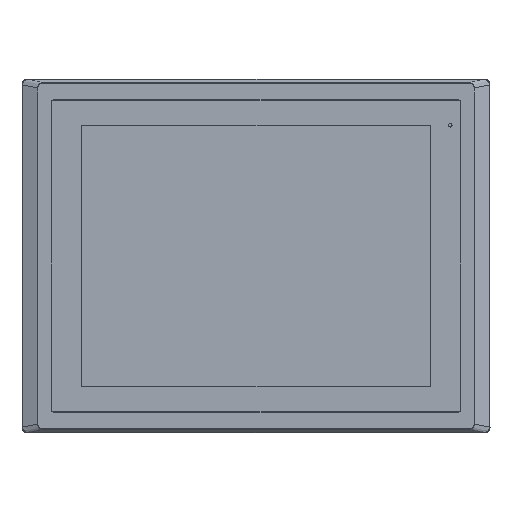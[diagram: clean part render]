
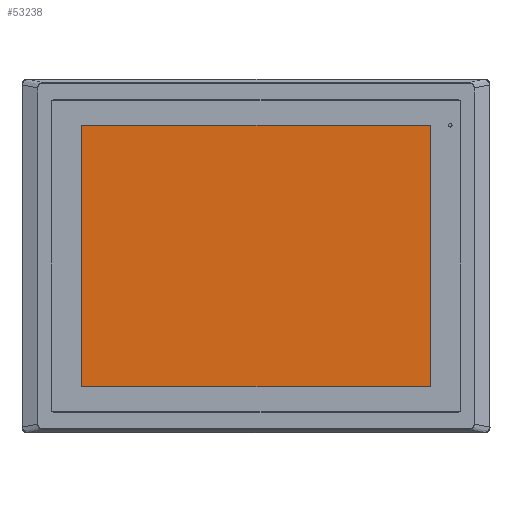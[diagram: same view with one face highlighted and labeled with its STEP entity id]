
A CAD part, top view. The second image highlights one B-rep face of the part: STEP entity #53238.
In plain terms, the highlighted planar face has unit normal (0, 0, 1).
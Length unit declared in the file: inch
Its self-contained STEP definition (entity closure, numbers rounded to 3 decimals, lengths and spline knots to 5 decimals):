
#1833 = DIRECTION ( 'NONE',  ( 0., 1., 0. ) ) ;
#2872 = ORIENTED_EDGE ( 'NONE', *, *, #68914, .T. ) ;
#12505 = CARTESIAN_POINT ( 'NONE',  ( 6.0061, 4.50965, 0.10236 ) ) ;
#13237 = DIRECTION ( 'NONE',  ( 0., -1., 0. ) ) ;
#14901 = ORIENTED_EDGE ( 'NONE', *, *, #80974, .T. ) ;
#19325 = VECTOR ( 'NONE', #53027, 39.37008 ) ;
#19475 = DIRECTION ( 'NONE',  ( -1., 0., 0. ) ) ;
#32186 = EDGE_CURVE ( 'NONE', #90696, #33234, #72755, .T. ) ;
#33234 = VERTEX_POINT ( 'NONE', #68207 ) ;
#33350 = LINE ( 'NONE', #12505, #79062 ) ;
#36014 = CARTESIAN_POINT ( 'NONE',  ( 0., 0., 0.10236 ) ) ;
#39311 = EDGE_CURVE ( 'NONE', #52010, #62562, #70238, .T. ) ;
#39651 = CARTESIAN_POINT ( 'NONE',  ( 6.0061, -4.50965, 0.10236 ) ) ;
#44944 = DIRECTION ( 'NONE',  ( 0., 0., 1. ) ) ;
#48372 = CARTESIAN_POINT ( 'NONE',  ( 6.0061, -4.50965, 0.10236 ) ) ;
#52010 = VERTEX_POINT ( 'NONE', #39651 ) ;
#53027 = DIRECTION ( 'NONE',  ( 1., 0., 0. ) ) ;
#53238 = ADVANCED_FACE ( 'NONE', ( #60261 ), #67269, .T. ) ;
#56054 = CARTESIAN_POINT ( 'NONE',  ( -6.0061, 4.50965, 0.10236 ) ) ;
#58495 = CARTESIAN_POINT ( 'NONE',  ( -6.0061, -4.50965, 0.10236 ) ) ;
#58813 = CARTESIAN_POINT ( 'NONE',  ( -6.0061, 4.50965, 0.10236 ) ) ;
#60261 = FACE_OUTER_BOUND ( 'NONE', #90189, .T. ) ;
#62562 = VERTEX_POINT ( 'NONE', #70936 ) ;
#67269 = PLANE ( 'NONE',  #94934 ) ;
#68207 = CARTESIAN_POINT ( 'NONE',  ( -6.0061, -4.50965, 0.10236 ) ) ;
#68914 = EDGE_CURVE ( 'NONE', #62562, #90696, #33350, .T. ) ;
#70238 = LINE ( 'NONE', #48372, #91136 ) ;
#70936 = CARTESIAN_POINT ( 'NONE',  ( 6.0061, 4.50965, 0.10236 ) ) ;
#72755 = LINE ( 'NONE', #58813, #90438 ) ;
#79062 = VECTOR ( 'NONE', #19475, 39.37008 ) ;
#80974 = EDGE_CURVE ( 'NONE', #33234, #52010, #97578, .T. ) ;
#90189 = EDGE_LOOP ( 'NONE', ( #91511, #2872, #95020, #14901 ) ) ;
#90438 = VECTOR ( 'NONE', #13237, 39.37008 ) ;
#90696 = VERTEX_POINT ( 'NONE', #56054 ) ;
#91136 = VECTOR ( 'NONE', #1833, 39.37008 ) ;
#91511 = ORIENTED_EDGE ( 'NONE', *, *, #39311, .T. ) ;
#94934 = AXIS2_PLACEMENT_3D ( 'NONE', #36014, #44944, #97889 ) ;
#95020 = ORIENTED_EDGE ( 'NONE', *, *, #32186, .T. ) ;
#97578 = LINE ( 'NONE', #58495, #19325 ) ;
#97889 = DIRECTION ( 'NONE',  ( 1., 0., 0. ) ) ;
